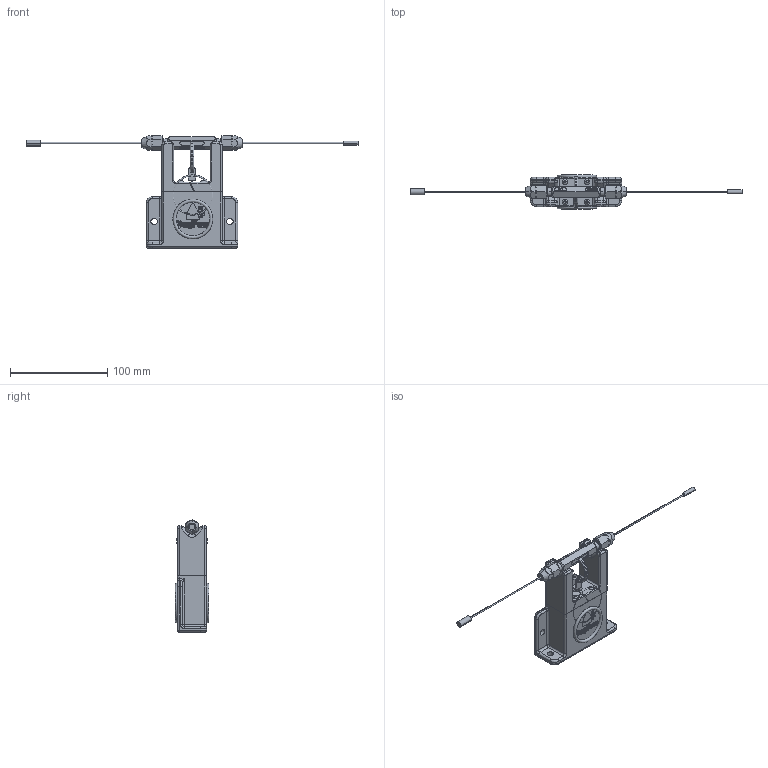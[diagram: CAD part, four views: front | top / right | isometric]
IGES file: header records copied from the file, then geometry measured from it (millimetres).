
Start section: 3D InterOp IGES (Version 25 0 2), Spatial Corp. Copyright (c) 1999-2007.
Global section: file name: aph_zy_igs.igs; native system: Spatial Corp.; preprocessor: 3D InterOp GENERIC/IGES 3.0; author: Noname; organization: Noname; date: 20210124.131628; units: metre
Bounding box: 342 x 34.99 x 115.75 mm (x, y, z)
Volume: 168659.9 mm3; surface area: 68609.5 mm2
Topology: 22 solids, 22 shells, 1554 faces, 4128 edges, 2666 vertices
Faces by surface type: plane 488, cylinder 353, bspline 274, extrusion 240, torus 115, cone 72, sphere 12
